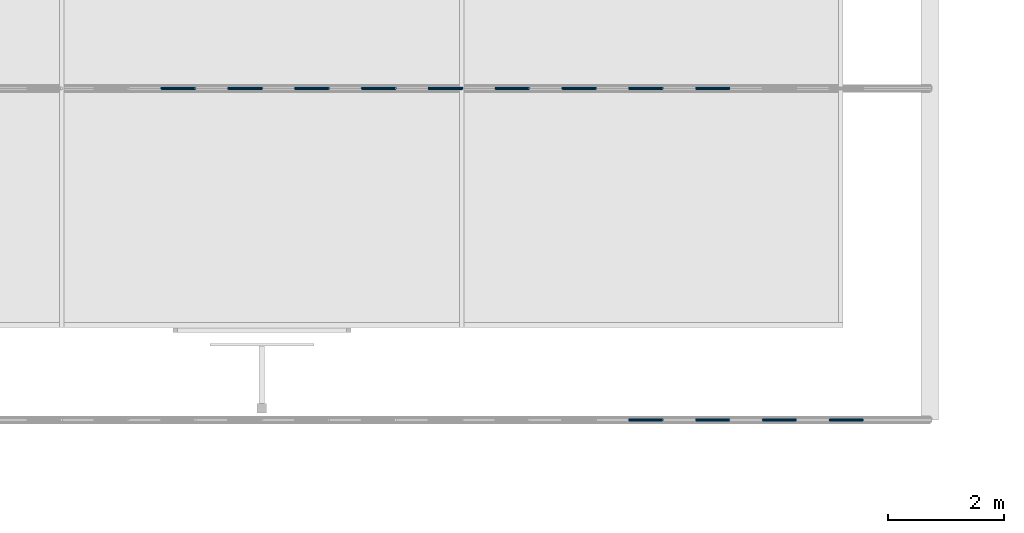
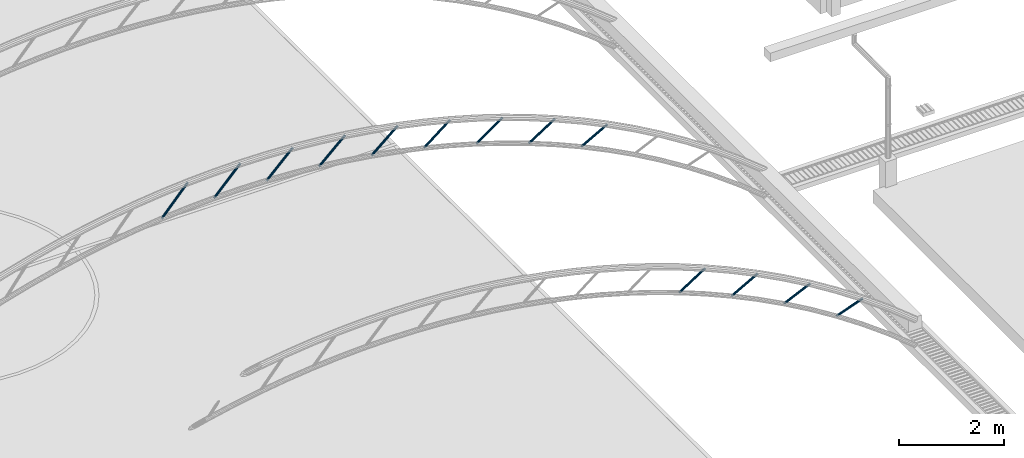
# One storey, part 18 of 90: 13 beams.
"""IFC2X3 building model written with IfcOpenShell, lengths in metres."""

from ifc_helpers import new_model, si_unit, origin, origin_with_axes, place, context, subcontext, project, spatial, faceted_brep, element, save


model = new_model("IFC2X3")

# Units and contexts
model_context = context("Model", 3, precision=1e-05, world=origin_with_axes())
body_context = subcontext(model_context, "Body", "Model", "MODEL_VIEW")
ifc_project = project(units=[si_unit("LENGTHUNIT", "METRE"), si_unit("AREAUNIT", "SQUARE_METRE"), si_unit("VOLUMEUNIT", "CUBIC_METRE"), si_unit("PLANEANGLEUNIT", "RADIAN")], contexts=[model_context])

# Site, building, storey
site_placement = place(None, origin_with_axes())
site = spatial("IfcSite", under=ifc_project, at=site_placement, Name="Predio Los Mangos - Morales, San Martín", CompositionType="ELEMENT")
building_placement = place(site_placement, origin())
building = spatial("IfcBuilding", under=site, at=building_placement, Name="Hogar de Refugio Temporal", CompositionType="ELEMENT")
storey_placement = place(building_placement, origin())
storey = spatial("IfcBuildingStorey", under=building, at=storey_placement, Name="NIVEL 1 (NPT +0.00)", CompositionType="ELEMENT", Elevation=0.0)

# Beams
beam_1_placement = place(storey_placement, origin())
element("IfcBeam", 1, at=beam_1_placement, inside=storey, Name="diag", ObjectType="Viga", context=body_context, shape_type="Brep", body=[
    faceted_brep([(21.3958, 92.6217, 8.401), (21.9733, 92.6217, 8.7715), (21.98, 92.625, 8.7609), (21.4025, 92.625, 8.3905), (21.3908, 92.6125, 8.4087), (21.9683, 92.6125, 8.7792), (21.389, 92.6, 8.4115), (21.9665, 92.6, 8.782), (21.3908, 92.5875, 8.4087), (21.9683, 92.5875, 8.7792), (21.3958, 92.5783, 8.401), (21.9733, 92.5783, 8.7715), (21.4025, 92.575, 8.3905), (21.98, 92.575, 8.7609), (21.4092, 92.5783, 8.38), (21.9867, 92.5783, 8.7504), (21.4142, 92.5875, 8.3723), (21.9917, 92.5875, 8.7427), (21.416, 92.6, 8.3695), (21.9935, 92.6, 8.7399), (21.4142, 92.6125, 8.3723), (21.9917, 92.6125, 8.7427), (21.4092, 92.6217, 8.38), (21.9867, 92.6217, 8.7504), (21.4013, 92.6037, 8.3923), (21.4025, 92.6043, 8.3905), (21.98, 92.6043, 8.7609), (21.9788, 92.6037, 8.7627), (21.4005, 92.6021, 8.3936), (21.978, 92.6021, 8.7641), (21.4002, 92.6, 8.3941), (21.9777, 92.6, 8.7645), (21.4005, 92.5979, 8.3936), (21.978, 92.5979, 8.7641), (21.4013, 92.5963, 8.3923), (21.9788, 92.5963, 8.7627), (21.4025, 92.5957, 8.3905), (21.98, 92.5957, 8.7609), (21.4037, 92.5963, 8.3887), (21.9812, 92.5963, 8.7591), (21.4045, 92.5979, 8.3874), (21.982, 92.5979, 8.7578), (21.4048, 92.6, 8.3869), (21.9823, 92.6, 8.7573), (21.4045, 92.6021, 8.3874), (21.982, 92.6021, 8.7578), (21.4037, 92.6037, 8.3887), (21.9812, 92.6037, 8.7591)], [[[0, 1, 2, 3]], [[4, 5, 1, 0]], [[6, 7, 5, 4]], [[8, 9, 7, 6]], [[10, 11, 9, 8]], [[12, 13, 11, 10]], [[14, 15, 13, 12]], [[16, 17, 15, 14]], [[18, 19, 17, 16]], [[20, 21, 19, 18]], [[22, 23, 21, 20]], [[3, 2, 23, 22]], [[24, 25, 26, 27]], [[28, 24, 27, 29]], [[30, 28, 29, 31]], [[32, 30, 31, 33]], [[34, 32, 33, 35]], [[36, 34, 35, 37]], [[38, 36, 37, 39]], [[40, 38, 39, 41]], [[42, 40, 41, 43]], [[44, 42, 43, 45]], [[46, 44, 45, 47]], [[25, 46, 47, 26]], [[11, 13, 37, 35]], [[21, 23, 47, 45]], [[4, 0, 24, 28]], [[14, 12, 36, 38]], [[3, 22, 46, 25]], [[7, 9, 33, 31]], [[17, 19, 43, 41]], [[23, 2, 26, 47]], [[10, 8, 32, 34]], [[20, 18, 42, 44]], [[1, 5, 29, 27]], [[13, 15, 39, 37]], [[6, 4, 28, 30]], [[16, 14, 38, 40]], [[0, 3, 25, 24]], [[9, 11, 35, 33]], [[19, 21, 45, 43]], [[12, 10, 34, 36]], [[22, 20, 44, 46]], [[5, 7, 31, 29]], [[15, 17, 41, 39]], [[2, 1, 27, 26]], [[8, 6, 30, 32]], [[18, 16, 40, 42]]]),
])
beam_2_placement = place(storey_placement, origin())
element("IfcBeam", 2, at=beam_2_placement, inside=storey, Name="diag", ObjectType="Viga", context=body_context, shape_type="Brep", body=[
    faceted_brep([(22.5514, 92.6217, 7.9187), (23.1289, 92.6217, 8.2407), (23.135, 92.625, 8.2298), (22.5575, 92.625, 7.9077), (22.547, 92.6125, 7.9267), (23.1245, 92.6125, 8.2487), (22.5453, 92.6, 7.9296), (23.1228, 92.6, 8.2517), (22.547, 92.5875, 7.9267), (23.1245, 92.5875, 8.2487), (22.5514, 92.5783, 7.9187), (23.1289, 92.5783, 8.2407), (22.5575, 92.575, 7.9077), (23.135, 92.575, 8.2298), (22.5636, 92.5783, 7.8968), (23.1411, 92.5783, 8.2189), (22.568, 92.5875, 7.8888), (23.1455, 92.5875, 8.2109), (22.5697, 92.6, 7.8859), (23.1472, 92.6, 8.208), (22.568, 92.6125, 7.8888), (23.1455, 92.6125, 8.2109), (22.5636, 92.6217, 7.8968), (23.1411, 92.6217, 8.2189), (22.5565, 92.6037, 7.9096), (22.5575, 92.6043, 7.9077), (23.135, 92.6043, 8.2298), (23.134, 92.6037, 8.2317), (22.5557, 92.6021, 7.911), (23.1332, 92.6021, 8.2331), (22.5554, 92.6, 7.9115), (23.1329, 92.6, 8.2336), (22.5557, 92.5979, 7.911), (23.1332, 92.5979, 8.2331), (22.5565, 92.5963, 7.9096), (23.134, 92.5963, 8.2317), (22.5575, 92.5957, 7.9077), (23.135, 92.5957, 8.2298), (22.5585, 92.5963, 7.9059), (23.136, 92.5963, 8.228), (22.5593, 92.5979, 7.9045), (23.1368, 92.5979, 8.2266), (22.5596, 92.6, 7.904), (23.1371, 92.6, 8.2261), (22.5593, 92.6021, 7.9045), (23.1368, 92.6021, 8.2266), (22.5585, 92.6037, 7.9059), (23.136, 92.6037, 8.228)], [[[0, 1, 2, 3]], [[4, 5, 1, 0]], [[6, 7, 5, 4]], [[8, 9, 7, 6]], [[10, 11, 9, 8]], [[12, 13, 11, 10]], [[14, 15, 13, 12]], [[16, 17, 15, 14]], [[18, 19, 17, 16]], [[20, 21, 19, 18]], [[22, 23, 21, 20]], [[3, 2, 23, 22]], [[24, 25, 26, 27]], [[28, 24, 27, 29]], [[30, 28, 29, 31]], [[32, 30, 31, 33]], [[34, 32, 33, 35]], [[36, 34, 35, 37]], [[38, 36, 37, 39]], [[40, 38, 39, 41]], [[42, 40, 41, 43]], [[44, 42, 43, 45]], [[46, 44, 45, 47]], [[25, 46, 47, 26]], [[11, 13, 37, 35]], [[21, 23, 47, 45]], [[4, 0, 24, 28]], [[14, 12, 36, 38]], [[3, 22, 46, 25]], [[7, 9, 33, 31]], [[17, 19, 43, 41]], [[23, 2, 26, 47]], [[10, 8, 32, 34]], [[20, 18, 42, 44]], [[1, 5, 29, 27]], [[13, 15, 39, 37]], [[6, 4, 28, 30]], [[16, 14, 38, 40]], [[0, 3, 25, 24]], [[9, 11, 35, 33]], [[19, 21, 45, 43]], [[12, 10, 34, 36]], [[22, 20, 44, 46]], [[5, 7, 31, 29]], [[15, 17, 41, 39]], [[2, 1, 27, 26]], [[8, 6, 30, 32]], [[18, 16, 40, 42]]]),
])
beam_3_placement = place(storey_placement, origin())
element("IfcBeam", 3, at=beam_3_placement, inside=storey, Name="diag", ObjectType="Viga", context=body_context, shape_type="Brep", body=[
    faceted_brep([(23.7072, 92.6217, 7.3372), (24.2847, 92.6217, 7.6056), (24.29, 92.625, 7.5943), (23.7125, 92.625, 7.3259), (23.7034, 92.6125, 7.3455), (24.2809, 92.6125, 7.6139), (23.702, 92.6, 7.3485), (24.2795, 92.6, 7.617), (23.7034, 92.5875, 7.3455), (24.2809, 92.5875, 7.6139), (23.7072, 92.5783, 7.3372), (24.2847, 92.5783, 7.6056), (23.7125, 92.575, 7.3259), (24.29, 92.575, 7.5943), (23.7178, 92.5783, 7.3145), (24.2953, 92.5783, 7.583), (23.7216, 92.5875, 7.3062), (24.2991, 92.5875, 7.5747), (23.723, 92.6, 7.3032), (24.3005, 92.6, 7.5716), (23.7216, 92.6125, 7.3062), (24.2991, 92.6125, 7.5747), (23.7178, 92.6217, 7.3145), (24.2953, 92.6217, 7.583), (23.7116, 92.6037, 7.3278), (23.7125, 92.6043, 7.3259), (24.29, 92.6043, 7.5943), (24.2891, 92.6037, 7.5963), (23.7109, 92.6021, 7.3292), (24.2884, 92.6021, 7.5977), (23.7107, 92.6, 7.3298), (24.2882, 92.6, 7.5982), (23.7109, 92.5979, 7.3292), (24.2884, 92.5979, 7.5977), (23.7116, 92.5963, 7.3278), (24.2891, 92.5963, 7.5963), (23.7125, 92.5957, 7.3259), (24.29, 92.5957, 7.5943), (23.7134, 92.5963, 7.3239), (24.2909, 92.5963, 7.5924), (23.7141, 92.5979, 7.3225), (24.2916, 92.5979, 7.5909), (23.7143, 92.6, 7.322), (24.2918, 92.6, 7.5904), (23.7141, 92.6021, 7.3225), (24.2916, 92.6021, 7.5909), (23.7134, 92.6037, 7.3239), (24.2909, 92.6037, 7.5924)], [[[0, 1, 2, 3]], [[4, 5, 1, 0]], [[6, 7, 5, 4]], [[8, 9, 7, 6]], [[10, 11, 9, 8]], [[12, 13, 11, 10]], [[14, 15, 13, 12]], [[16, 17, 15, 14]], [[18, 19, 17, 16]], [[20, 21, 19, 18]], [[22, 23, 21, 20]], [[3, 2, 23, 22]], [[24, 25, 26, 27]], [[28, 24, 27, 29]], [[30, 28, 29, 31]], [[32, 30, 31, 33]], [[34, 32, 33, 35]], [[36, 34, 35, 37]], [[38, 36, 37, 39]], [[40, 38, 39, 41]], [[42, 40, 41, 43]], [[44, 42, 43, 45]], [[46, 44, 45, 47]], [[25, 46, 47, 26]], [[11, 13, 37, 35]], [[21, 23, 47, 45]], [[4, 0, 24, 28]], [[14, 12, 36, 38]], [[3, 22, 46, 25]], [[7, 9, 33, 31]], [[17, 19, 43, 41]], [[23, 2, 26, 47]], [[10, 8, 32, 34]], [[20, 18, 42, 44]], [[1, 5, 29, 27]], [[13, 15, 39, 37]], [[6, 4, 28, 30]], [[16, 14, 38, 40]], [[0, 3, 25, 24]], [[9, 11, 35, 33]], [[19, 21, 45, 43]], [[12, 10, 34, 36]], [[22, 20, 44, 46]], [[5, 7, 31, 29]], [[15, 17, 41, 39]], [[2, 1, 27, 26]], [[8, 6, 30, 32]], [[18, 16, 40, 42]]]),
])
beam_4_placement = place(storey_placement, origin())
element("IfcBeam", 4, at=beam_4_placement, inside=storey, Name="diag", ObjectType="Viga", context=body_context, shape_type="Brep", body=[
    faceted_brep([(24.8633, 92.6217, 6.6451), (25.4408, 92.6217, 6.8526), (25.445, 92.625, 6.8408), (24.8675, 92.625, 6.6333), (24.8602, 92.6125, 6.6537), (25.4377, 92.6125, 6.8612), (24.859, 92.6, 6.6569), (25.4365, 92.6, 6.8643), (24.8602, 92.5875, 6.6537), (25.4377, 92.5875, 6.8612), (24.8633, 92.5783, 6.6451), (25.4408, 92.5783, 6.8526), (24.8675, 92.575, 6.6333), (25.445, 92.575, 6.8408), (24.8717, 92.5783, 6.6216), (25.4492, 92.5783, 6.829), (24.8748, 92.5875, 6.613), (25.4523, 92.5875, 6.8204), (24.876, 92.6, 6.6098), (25.4535, 92.6, 6.8173), (24.8748, 92.6125, 6.613), (25.4523, 92.6125, 6.8204), (24.8717, 92.6217, 6.6216), (25.4492, 92.6217, 6.829), (24.8668, 92.6037, 6.6354), (24.8675, 92.6043, 6.6333), (25.445, 92.6043, 6.8408), (25.4443, 92.6037, 6.8428), (24.8662, 92.6021, 6.6368), (25.4437, 92.6021, 6.8443), (24.866, 92.6, 6.6374), (25.4435, 92.6, 6.8449), (24.8662, 92.5979, 6.6368), (25.4437, 92.5979, 6.8443), (24.8668, 92.5963, 6.6354), (25.4443, 92.5963, 6.8428), (24.8675, 92.5957, 6.6333), (25.445, 92.5957, 6.8408), (24.8682, 92.5963, 6.6313), (25.4457, 92.5963, 6.8388), (24.8688, 92.5979, 6.6298), (25.4463, 92.5979, 6.8373), (24.869, 92.6, 6.6293), (25.4465, 92.6, 6.8368), (24.8688, 92.6021, 6.6298), (25.4463, 92.6021, 6.8373), (24.8682, 92.6037, 6.6313), (25.4457, 92.6037, 6.8388)], [[[0, 1, 2, 3]], [[4, 5, 1, 0]], [[6, 7, 5, 4]], [[8, 9, 7, 6]], [[10, 11, 9, 8]], [[12, 13, 11, 10]], [[14, 15, 13, 12]], [[16, 17, 15, 14]], [[18, 19, 17, 16]], [[20, 21, 19, 18]], [[22, 23, 21, 20]], [[3, 2, 23, 22]], [[24, 25, 26, 27]], [[28, 24, 27, 29]], [[30, 28, 29, 31]], [[32, 30, 31, 33]], [[34, 32, 33, 35]], [[36, 34, 35, 37]], [[38, 36, 37, 39]], [[40, 38, 39, 41]], [[42, 40, 41, 43]], [[44, 42, 43, 45]], [[46, 44, 45, 47]], [[25, 46, 47, 26]], [[11, 13, 37, 35]], [[21, 23, 47, 45]], [[4, 0, 24, 28]], [[14, 12, 36, 38]], [[3, 22, 46, 25]], [[7, 9, 33, 31]], [[17, 19, 43, 41]], [[23, 2, 26, 47]], [[10, 8, 32, 34]], [[20, 18, 42, 44]], [[1, 5, 29, 27]], [[13, 15, 39, 37]], [[6, 4, 28, 30]], [[16, 14, 38, 40]], [[0, 3, 25, 24]], [[9, 11, 35, 33]], [[19, 21, 45, 43]], [[12, 10, 34, 36]], [[22, 20, 44, 46]], [[5, 7, 31, 29]], [[15, 17, 41, 39]], [[2, 1, 27, 26]], [[8, 6, 30, 32]], [[18, 16, 40, 42]]]),
])
beam_5_placement = place(storey_placement, origin())
element("IfcBeam", 5, at=beam_5_placement, inside=storey, Name="diag", ObjectType="Viga", context=body_context, shape_type="Brep", body=[
    faceted_brep([(13.3082, 98.355, 9.4747), (13.8857, 98.355, 10.1212), (13.895, 98.3583, 10.1129), (13.3175, 98.3583, 9.4663), (13.3014, 98.3458, 9.4808), (13.8789, 98.3458, 10.1273), (13.2989, 98.3333, 9.483), (13.8764, 98.3333, 10.1295), (13.3014, 98.3208, 9.4808), (13.8789, 98.3208, 10.1273), (13.3082, 98.3117, 9.4747), (13.8857, 98.3117, 10.1212), (13.3175, 98.3083, 9.4663), (13.895, 98.3083, 10.1129), (13.3268, 98.3117, 9.458), (13.9043, 98.3117, 10.1045), (13.3336, 98.3208, 9.4519), (13.9111, 98.3208, 10.0984), (13.3361, 98.3333, 9.4497), (13.9136, 98.3333, 10.0962), (13.3336, 98.3458, 9.4519), (13.9111, 98.3458, 10.0984), (13.3268, 98.355, 9.458), (13.9043, 98.355, 10.1045), (13.3159, 98.3371, 9.4678), (13.3175, 98.3376, 9.4663), (13.895, 98.3376, 10.1129), (13.8934, 98.3371, 10.1143), (13.3147, 98.3355, 9.4688), (13.8922, 98.3355, 10.1153), (13.3143, 98.3333, 9.4692), (13.8918, 98.3333, 10.1157), (13.3147, 98.3312, 9.4688), (13.8922, 98.3312, 10.1153), (13.3159, 98.3296, 9.4678), (13.8934, 98.3296, 10.1143), (13.3175, 98.329, 9.4663), (13.895, 98.329, 10.1129), (13.3191, 98.3296, 9.4649), (13.8966, 98.3296, 10.1114), (13.3203, 98.3312, 9.4639), (13.8978, 98.3312, 10.1104), (13.3207, 98.3333, 9.4635), (13.8982, 98.3333, 10.11), (13.3203, 98.3355, 9.4639), (13.8978, 98.3355, 10.1104), (13.3191, 98.3371, 9.4649), (13.8966, 98.3371, 10.1114)], [[[0, 1, 2, 3]], [[4, 5, 1, 0]], [[6, 7, 5, 4]], [[8, 9, 7, 6]], [[10, 11, 9, 8]], [[12, 13, 11, 10]], [[14, 15, 13, 12]], [[16, 17, 15, 14]], [[18, 19, 17, 16]], [[20, 21, 19, 18]], [[22, 23, 21, 20]], [[3, 2, 23, 22]], [[24, 25, 26, 27]], [[28, 24, 27, 29]], [[30, 28, 29, 31]], [[32, 30, 31, 33]], [[34, 32, 33, 35]], [[36, 34, 35, 37]], [[38, 36, 37, 39]], [[40, 38, 39, 41]], [[42, 40, 41, 43]], [[44, 42, 43, 45]], [[46, 44, 45, 47]], [[25, 46, 47, 26]], [[11, 13, 37, 35]], [[21, 23, 47, 45]], [[4, 0, 24, 28]], [[14, 12, 36, 38]], [[3, 22, 46, 25]], [[7, 9, 33, 31]], [[17, 19, 43, 41]], [[23, 2, 26, 47]], [[10, 8, 32, 34]], [[20, 18, 42, 44]], [[1, 5, 29, 27]], [[13, 15, 39, 37]], [[6, 4, 28, 30]], [[16, 14, 38, 40]], [[0, 3, 25, 24]], [[9, 11, 35, 33]], [[19, 21, 45, 43]], [[12, 10, 34, 36]], [[22, 20, 44, 46]], [[5, 7, 31, 29]], [[15, 17, 41, 39]], [[2, 1, 27, 26]], [[8, 6, 30, 32]], [[18, 16, 40, 42]]]),
])
beam_6_placement = place(storey_placement, origin())
element("IfcBeam", 6, at=beam_6_placement, inside=storey, Name="diag", ObjectType="Viga", context=body_context, shape_type="Brep", body=[
    faceted_brep([(14.4634, 98.355, 9.5493), (15.0409, 98.355, 10.1586), (15.05, 98.3583, 10.15), (14.4725, 98.3583, 9.5407), (14.4568, 98.3458, 9.5556), (15.0343, 98.3458, 10.1649), (14.4544, 98.3333, 9.5579), (15.0319, 98.3333, 10.1672), (14.4568, 98.3208, 9.5556), (15.0343, 98.3208, 10.1649), (14.4634, 98.3117, 9.5493), (15.0409, 98.3117, 10.1586), (14.4725, 98.3083, 9.5407), (15.05, 98.3083, 10.15), (14.4816, 98.3117, 9.5321), (15.0591, 98.3117, 10.1414), (14.4882, 98.3208, 9.5258), (15.0657, 98.3208, 10.1351), (14.4906, 98.3333, 9.5235), (15.0681, 98.3333, 10.1328), (14.4882, 98.3458, 9.5258), (15.0657, 98.3458, 10.1351), (14.4816, 98.355, 9.5321), (15.0591, 98.355, 10.1414), (14.4709, 98.3371, 9.5422), (14.4725, 98.3376, 9.5407), (15.05, 98.3376, 10.15), (15.0484, 98.3371, 10.1515), (14.4698, 98.3355, 9.5433), (15.0473, 98.3355, 10.1526), (14.4694, 98.3333, 9.5437), (15.0469, 98.3333, 10.153), (14.4698, 98.3312, 9.5433), (15.0473, 98.3312, 10.1526), (14.4709, 98.3296, 9.5422), (15.0484, 98.3296, 10.1515), (14.4725, 98.329, 9.5407), (15.05, 98.329, 10.15), (14.4741, 98.3296, 9.5392), (15.0516, 98.3296, 10.1485), (14.4752, 98.3312, 9.5382), (15.0527, 98.3312, 10.1474), (14.4756, 98.3333, 9.5378), (15.0531, 98.3333, 10.147), (14.4752, 98.3355, 9.5382), (15.0527, 98.3355, 10.1474), (14.4741, 98.3371, 9.5392), (15.0516, 98.3371, 10.1485)], [[[0, 1, 2, 3]], [[4, 5, 1, 0]], [[6, 7, 5, 4]], [[8, 9, 7, 6]], [[10, 11, 9, 8]], [[12, 13, 11, 10]], [[14, 15, 13, 12]], [[16, 17, 15, 14]], [[18, 19, 17, 16]], [[20, 21, 19, 18]], [[22, 23, 21, 20]], [[3, 2, 23, 22]], [[24, 25, 26, 27]], [[28, 24, 27, 29]], [[30, 28, 29, 31]], [[32, 30, 31, 33]], [[34, 32, 33, 35]], [[36, 34, 35, 37]], [[38, 36, 37, 39]], [[40, 38, 39, 41]], [[42, 40, 41, 43]], [[44, 42, 43, 45]], [[46, 44, 45, 47]], [[25, 46, 47, 26]], [[11, 13, 37, 35]], [[21, 23, 47, 45]], [[4, 0, 24, 28]], [[14, 12, 36, 38]], [[3, 22, 46, 25]], [[7, 9, 33, 31]], [[17, 19, 43, 41]], [[23, 2, 26, 47]], [[10, 8, 32, 34]], [[20, 18, 42, 44]], [[1, 5, 29, 27]], [[13, 15, 39, 37]], [[6, 4, 28, 30]], [[16, 14, 38, 40]], [[0, 3, 25, 24]], [[9, 11, 35, 33]], [[19, 21, 45, 43]], [[12, 10, 34, 36]], [[22, 20, 44, 46]], [[5, 7, 31, 29]], [[15, 17, 41, 39]], [[2, 1, 27, 26]], [[8, 6, 30, 32]], [[18, 16, 40, 42]]]),
])
beam_7_placement = place(storey_placement, origin())
element("IfcBeam", 7, at=beam_7_placement, inside=storey, Name="diag", ObjectType="Viga", context=body_context, shape_type="Brep", body=[
    faceted_brep([(15.6187, 98.355, 9.5496), (16.1962, 98.355, 10.1217), (16.205, 98.3583, 10.1129), (15.6275, 98.3583, 9.5407), (15.6123, 98.3458, 9.5561), (16.1898, 98.3458, 10.1282), (15.6099, 98.3333, 9.5585), (16.1874, 98.3333, 10.1306), (15.6123, 98.3208, 9.5561), (16.1898, 98.3208, 10.1282), (15.6187, 98.3117, 9.5496), (16.1962, 98.3117, 10.1217), (15.6275, 98.3083, 9.5407), (16.205, 98.3083, 10.1129), (15.6363, 98.3117, 9.5318), (16.2138, 98.3117, 10.104), (15.6427, 98.3208, 9.5253), (16.2202, 98.3208, 10.0975), (15.6451, 98.3333, 9.523), (16.2226, 98.3333, 10.0951), (15.6427, 98.3458, 9.5253), (16.2202, 98.3458, 10.0975), (15.6363, 98.355, 9.5318), (16.2138, 98.355, 10.104), (15.626, 98.3371, 9.5422), (15.6275, 98.3376, 9.5407), (16.205, 98.3376, 10.1129), (16.2035, 98.3371, 10.1144), (15.6249, 98.3355, 9.5434), (16.2024, 98.3355, 10.1155), (15.6245, 98.3333, 9.5438), (16.202, 98.3333, 10.1159), (15.6249, 98.3312, 9.5434), (16.2024, 98.3312, 10.1155), (15.626, 98.3296, 9.5422), (16.2035, 98.3296, 10.1144), (15.6275, 98.329, 9.5407), (16.205, 98.329, 10.1129), (15.629, 98.3296, 9.5392), (16.2065, 98.3296, 10.1113), (15.6301, 98.3312, 9.5381), (16.2076, 98.3312, 10.1102), (15.6305, 98.3333, 9.5377), (16.208, 98.3333, 10.1098), (15.6301, 98.3355, 9.5381), (16.2076, 98.3355, 10.1102), (15.629, 98.3371, 9.5392), (16.2065, 98.3371, 10.1113)], [[[0, 1, 2, 3]], [[4, 5, 1, 0]], [[6, 7, 5, 4]], [[8, 9, 7, 6]], [[10, 11, 9, 8]], [[12, 13, 11, 10]], [[14, 15, 13, 12]], [[16, 17, 15, 14]], [[18, 19, 17, 16]], [[20, 21, 19, 18]], [[22, 23, 21, 20]], [[3, 2, 23, 22]], [[24, 25, 26, 27]], [[28, 24, 27, 29]], [[30, 28, 29, 31]], [[32, 30, 31, 33]], [[34, 32, 33, 35]], [[36, 34, 35, 37]], [[38, 36, 37, 39]], [[40, 38, 39, 41]], [[42, 40, 41, 43]], [[44, 42, 43, 45]], [[46, 44, 45, 47]], [[25, 46, 47, 26]], [[11, 13, 37, 35]], [[21, 23, 47, 45]], [[4, 0, 24, 28]], [[14, 12, 36, 38]], [[3, 22, 46, 25]], [[7, 9, 33, 31]], [[17, 19, 43, 41]], [[23, 2, 26, 47]], [[10, 8, 32, 34]], [[20, 18, 42, 44]], [[1, 5, 29, 27]], [[13, 15, 39, 37]], [[6, 4, 28, 30]], [[16, 14, 38, 40]], [[0, 3, 25, 24]], [[9, 11, 35, 33]], [[19, 21, 45, 43]], [[12, 10, 34, 36]], [[22, 20, 44, 46]], [[5, 7, 31, 29]], [[15, 17, 41, 39]], [[2, 1, 27, 26]], [[8, 6, 30, 32]], [[18, 16, 40, 42]]]),
])
beam_8_placement = place(storey_placement, origin())
element("IfcBeam", 8, at=beam_8_placement, inside=storey, Name="diag", ObjectType="Viga", context=body_context, shape_type="Brep", body=[
    faceted_brep([(16.774, 98.355, 9.4755), (17.3515, 98.355, 10.0102), (17.36, 98.3583, 10.001), (16.7825, 98.3583, 9.4663), (16.7678, 98.3458, 9.4822), (17.3453, 98.3458, 10.0169), (16.7655, 98.3333, 9.4847), (17.343, 98.3333, 10.0193), (16.7678, 98.3208, 9.4822), (17.3453, 98.3208, 10.0169), (16.774, 98.3117, 9.4755), (17.3515, 98.3117, 10.0102), (16.7825, 98.3083, 9.4663), (17.36, 98.3083, 10.001), (16.791, 98.3117, 9.4572), (17.3685, 98.3117, 9.9918), (16.7972, 98.3208, 9.4505), (17.3747, 98.3208, 9.9851), (16.7995, 98.3333, 9.448), (17.377, 98.3333, 9.9827), (16.7972, 98.3458, 9.4505), (17.3747, 98.3458, 9.9851), (16.791, 98.355, 9.4572), (17.3685, 98.355, 9.9918), (16.781, 98.3371, 9.4679), (16.7825, 98.3376, 9.4663), (17.36, 98.3376, 10.001), (17.3585, 98.3371, 10.0026), (16.78, 98.3355, 9.4691), (17.3575, 98.3355, 10.0037), (16.7796, 98.3333, 9.4695), (17.3571, 98.3333, 10.0042), (16.78, 98.3312, 9.4691), (17.3575, 98.3312, 10.0037), (16.781, 98.3296, 9.4679), (17.3585, 98.3296, 10.0026), (16.7825, 98.329, 9.4663), (17.36, 98.329, 10.001), (16.784, 98.3296, 9.4648), (17.3615, 98.3296, 9.9994), (16.785, 98.3312, 9.4636), (17.3625, 98.3312, 9.9983), (16.7854, 98.3333, 9.4632), (17.3629, 98.3333, 9.9979), (16.785, 98.3355, 9.4636), (17.3625, 98.3355, 9.9983), (16.784, 98.3371, 9.4648), (17.3615, 98.3371, 9.9994)], [[[0, 1, 2, 3]], [[4, 5, 1, 0]], [[6, 7, 5, 4]], [[8, 9, 7, 6]], [[10, 11, 9, 8]], [[12, 13, 11, 10]], [[14, 15, 13, 12]], [[16, 17, 15, 14]], [[18, 19, 17, 16]], [[20, 21, 19, 18]], [[22, 23, 21, 20]], [[3, 2, 23, 22]], [[24, 25, 26, 27]], [[28, 24, 27, 29]], [[30, 28, 29, 31]], [[32, 30, 31, 33]], [[34, 32, 33, 35]], [[36, 34, 35, 37]], [[38, 36, 37, 39]], [[40, 38, 39, 41]], [[42, 40, 41, 43]], [[44, 42, 43, 45]], [[46, 44, 45, 47]], [[25, 46, 47, 26]], [[11, 13, 37, 35]], [[21, 23, 47, 45]], [[4, 0, 24, 28]], [[14, 12, 36, 38]], [[3, 22, 46, 25]], [[7, 9, 33, 31]], [[17, 19, 43, 41]], [[23, 2, 26, 47]], [[10, 8, 32, 34]], [[20, 18, 42, 44]], [[1, 5, 29, 27]], [[13, 15, 39, 37]], [[6, 4, 28, 30]], [[16, 14, 38, 40]], [[0, 3, 25, 24]], [[9, 11, 35, 33]], [[19, 21, 45, 43]], [[12, 10, 34, 36]], [[22, 20, 44, 46]], [[5, 7, 31, 29]], [[15, 17, 41, 39]], [[2, 1, 27, 26]], [[8, 6, 30, 32]], [[18, 16, 40, 42]]]),
])
beam_9_placement = place(storey_placement, origin())
element("IfcBeam", 9, at=beam_9_placement, inside=storey, Name="diag", ObjectType="Viga", context=body_context, shape_type="Brep", body=[
    faceted_brep([(17.9294, 98.355, 9.3261), (18.5069, 98.355, 9.8225), (18.515, 98.3583, 9.813), (17.9375, 98.3583, 9.3166), (17.9234, 98.3458, 9.3331), (18.5009, 98.3458, 9.8294), (17.9212, 98.3333, 9.3356), (18.4987, 98.3333, 9.8319), (17.9234, 98.3208, 9.3331), (18.5009, 98.3208, 9.8294), (17.9294, 98.3117, 9.3261), (18.5069, 98.3117, 9.8225), (17.9375, 98.3083, 9.3166), (18.515, 98.3083, 9.813), (17.9456, 98.3117, 9.3072), (18.5231, 98.3117, 9.8035), (17.9516, 98.3208, 9.3002), (18.5291, 98.3208, 9.7966), (17.9538, 98.3333, 9.2977), (18.5313, 98.3333, 9.794), (17.9516, 98.3458, 9.3002), (18.5291, 98.3458, 9.7966), (17.9456, 98.355, 9.3072), (18.5231, 98.355, 9.8035), (17.9361, 98.3371, 9.3183), (17.9375, 98.3376, 9.3166), (18.515, 98.3376, 9.813), (18.5136, 98.3371, 9.8146), (17.9351, 98.3355, 9.3195), (18.5126, 98.3355, 9.8158), (17.9347, 98.3333, 9.3199), (18.5122, 98.3333, 9.8162), (17.9351, 98.3312, 9.3195), (18.5126, 98.3312, 9.8158), (17.9361, 98.3296, 9.3183), (18.5136, 98.3296, 9.8146), (17.9375, 98.329, 9.3166), (18.515, 98.329, 9.813), (17.9389, 98.3296, 9.315), (18.5164, 98.3296, 9.8114), (17.9399, 98.3312, 9.3138), (18.5174, 98.3312, 9.8102), (17.9403, 98.3333, 9.3134), (18.5178, 98.3333, 9.8097), (17.9399, 98.3355, 9.3138), (18.5174, 98.3355, 9.8102), (17.9389, 98.3371, 9.315), (18.5164, 98.3371, 9.8114)], [[[0, 1, 2, 3]], [[4, 5, 1, 0]], [[6, 7, 5, 4]], [[8, 9, 7, 6]], [[10, 11, 9, 8]], [[12, 13, 11, 10]], [[14, 15, 13, 12]], [[16, 17, 15, 14]], [[18, 19, 17, 16]], [[20, 21, 19, 18]], [[22, 23, 21, 20]], [[3, 2, 23, 22]], [[24, 25, 26, 27]], [[28, 24, 27, 29]], [[30, 28, 29, 31]], [[32, 30, 31, 33]], [[34, 32, 33, 35]], [[36, 34, 35, 37]], [[38, 36, 37, 39]], [[40, 38, 39, 41]], [[42, 40, 41, 43]], [[44, 42, 43, 45]], [[46, 44, 45, 47]], [[25, 46, 47, 26]], [[11, 13, 37, 35]], [[21, 23, 47, 45]], [[4, 0, 24, 28]], [[14, 12, 36, 38]], [[3, 22, 46, 25]], [[7, 9, 33, 31]], [[17, 19, 43, 41]], [[23, 2, 26, 47]], [[10, 8, 32, 34]], [[20, 18, 42, 44]], [[1, 5, 29, 27]], [[13, 15, 39, 37]], [[6, 4, 28, 30]], [[16, 14, 38, 40]], [[0, 3, 25, 24]], [[9, 11, 35, 33]], [[19, 21, 45, 43]], [[12, 10, 34, 36]], [[22, 20, 44, 46]], [[5, 7, 31, 29]], [[15, 17, 41, 39]], [[2, 1, 27, 26]], [[8, 6, 30, 32]], [[18, 16, 40, 42]]]),
])
beam_10_placement = place(storey_placement, origin())
element("IfcBeam", 10, at=beam_10_placement, inside=storey, Name="diag", ObjectType="Viga", context=body_context, shape_type="Brep", body=[
    faceted_brep([(19.0847, 98.355, 9.0995), (19.6622, 98.355, 9.5562), (19.67, 98.3583, 9.5463), (19.0925, 98.3583, 9.0897), (19.0791, 98.3458, 9.1067), (19.6566, 98.3458, 9.5633), (19.077, 98.3333, 9.1093), (19.6545, 98.3333, 9.566), (19.0791, 98.3208, 9.1067), (19.6566, 98.3208, 9.5633), (19.0847, 98.3117, 9.0995), (19.6622, 98.3117, 9.5562), (19.0925, 98.3083, 9.0897), (19.67, 98.3083, 9.5463), (19.1003, 98.3117, 9.0799), (19.6778, 98.3117, 9.5365), (19.1059, 98.3208, 9.0727), (19.6834, 98.3208, 9.5294), (19.108, 98.3333, 9.0701), (19.6855, 98.3333, 9.5267), (19.1059, 98.3458, 9.0727), (19.6834, 98.3458, 9.5294), (19.1003, 98.355, 9.0799), (19.6778, 98.355, 9.5365), (19.0912, 98.3371, 9.0914), (19.0925, 98.3376, 9.0897), (19.67, 98.3376, 9.5463), (19.6687, 98.3371, 9.548), (19.0902, 98.3355, 9.0926), (19.6677, 98.3355, 9.5493), (19.0898, 98.3333, 9.0931), (19.6673, 98.3333, 9.5497), (19.0902, 98.3312, 9.0926), (19.6677, 98.3312, 9.5493), (19.0912, 98.3296, 9.0914), (19.6687, 98.3296, 9.548), (19.0925, 98.329, 9.0897), (19.67, 98.329, 9.5463), (19.0938, 98.3296, 9.088), (19.6713, 98.3296, 9.5447), (19.0948, 98.3312, 9.0868), (19.6723, 98.3312, 9.5434), (19.0952, 98.3333, 9.0863), (19.6727, 98.3333, 9.543), (19.0948, 98.3355, 9.0868), (19.6723, 98.3355, 9.5434), (19.0938, 98.3371, 9.088), (19.6713, 98.3371, 9.5447)], [[[0, 1, 2, 3]], [[4, 5, 1, 0]], [[6, 7, 5, 4]], [[8, 9, 7, 6]], [[10, 11, 9, 8]], [[12, 13, 11, 10]], [[14, 15, 13, 12]], [[16, 17, 15, 14]], [[18, 19, 17, 16]], [[20, 21, 19, 18]], [[22, 23, 21, 20]], [[3, 2, 23, 22]], [[24, 25, 26, 27]], [[28, 24, 27, 29]], [[30, 28, 29, 31]], [[32, 30, 31, 33]], [[34, 32, 33, 35]], [[36, 34, 35, 37]], [[38, 36, 37, 39]], [[40, 38, 39, 41]], [[42, 40, 41, 43]], [[44, 42, 43, 45]], [[46, 44, 45, 47]], [[25, 46, 47, 26]], [[11, 13, 37, 35]], [[21, 23, 47, 45]], [[4, 0, 24, 28]], [[14, 12, 36, 38]], [[3, 22, 46, 25]], [[7, 9, 33, 31]], [[17, 19, 43, 41]], [[23, 2, 26, 47]], [[10, 8, 32, 34]], [[20, 18, 42, 44]], [[1, 5, 29, 27]], [[13, 15, 39, 37]], [[6, 4, 28, 30]], [[16, 14, 38, 40]], [[0, 3, 25, 24]], [[9, 11, 35, 33]], [[19, 21, 45, 43]], [[12, 10, 34, 36]], [[22, 20, 44, 46]], [[5, 7, 31, 29]], [[15, 17, 41, 39]], [[2, 1, 27, 26]], [[8, 6, 30, 32]], [[18, 16, 40, 42]]]),
])
beam_11_placement = place(storey_placement, origin())
element("IfcBeam", 11, at=beam_11_placement, inside=storey, Name="diag", ObjectType="Viga", context=body_context, shape_type="Brep", body=[
    faceted_brep([(20.2402, 98.355, 8.7926), (20.8177, 98.355, 9.2075), (20.825, 98.3583, 9.1974), (20.2475, 98.3583, 8.7824), (20.2349, 98.3458, 8.8), (20.8124, 98.3458, 9.215), (20.2329, 98.3333, 8.8027), (20.8104, 98.3333, 9.2177), (20.2349, 98.3208, 8.8), (20.8124, 98.3208, 9.215), (20.2402, 98.3117, 8.7926), (20.8177, 98.3117, 9.2075), (20.2475, 98.3083, 8.7824), (20.825, 98.3083, 9.1974), (20.2548, 98.3117, 8.7723), (20.8323, 98.3117, 9.1872), (20.2601, 98.3208, 8.7649), (20.8376, 98.3208, 9.1798), (20.2621, 98.3333, 8.7621), (20.8396, 98.3333, 9.1771), (20.2601, 98.3458, 8.7649), (20.8376, 98.3458, 9.1798), (20.2548, 98.355, 8.7723), (20.8323, 98.355, 9.1872), (20.2462, 98.3371, 8.7842), (20.2475, 98.3376, 8.7824), (20.825, 98.3376, 9.1974), (20.8237, 98.3371, 9.1991), (20.2453, 98.3355, 8.7855), (20.8228, 98.3355, 9.2004), (20.245, 98.3333, 8.7859), (20.8225, 98.3333, 9.2009), (20.2453, 98.3312, 8.7855), (20.8228, 98.3312, 9.2004), (20.2462, 98.3296, 8.7842), (20.8237, 98.3296, 9.1991), (20.2475, 98.329, 8.7824), (20.825, 98.329, 9.1974), (20.2488, 98.3296, 8.7807), (20.8263, 98.3296, 9.1957), (20.2497, 98.3312, 8.7794), (20.8272, 98.3312, 9.1944), (20.25, 98.3333, 8.779), (20.8275, 98.3333, 9.1939), (20.2497, 98.3355, 8.7794), (20.8272, 98.3355, 9.1944), (20.2488, 98.3371, 8.7807), (20.8263, 98.3371, 9.1957)], [[[0, 1, 2, 3]], [[4, 5, 1, 0]], [[6, 7, 5, 4]], [[8, 9, 7, 6]], [[10, 11, 9, 8]], [[12, 13, 11, 10]], [[14, 15, 13, 12]], [[16, 17, 15, 14]], [[18, 19, 17, 16]], [[20, 21, 19, 18]], [[22, 23, 21, 20]], [[3, 2, 23, 22]], [[24, 25, 26, 27]], [[28, 24, 27, 29]], [[30, 28, 29, 31]], [[32, 30, 31, 33]], [[34, 32, 33, 35]], [[36, 34, 35, 37]], [[38, 36, 37, 39]], [[40, 38, 39, 41]], [[42, 40, 41, 43]], [[44, 42, 43, 45]], [[46, 44, 45, 47]], [[25, 46, 47, 26]], [[11, 13, 37, 35]], [[21, 23, 47, 45]], [[4, 0, 24, 28]], [[14, 12, 36, 38]], [[3, 22, 46, 25]], [[7, 9, 33, 31]], [[17, 19, 43, 41]], [[23, 2, 26, 47]], [[10, 8, 32, 34]], [[20, 18, 42, 44]], [[1, 5, 29, 27]], [[13, 15, 39, 37]], [[6, 4, 28, 30]], [[16, 14, 38, 40]], [[0, 3, 25, 24]], [[9, 11, 35, 33]], [[19, 21, 45, 43]], [[12, 10, 34, 36]], [[22, 20, 44, 46]], [[5, 7, 31, 29]], [[15, 17, 41, 39]], [[2, 1, 27, 26]], [[8, 6, 30, 32]], [[18, 16, 40, 42]]]),
])
beam_12_placement = place(storey_placement, origin())
element("IfcBeam", 12, at=beam_12_placement, inside=storey, Name="diag", ObjectType="Viga", context=body_context, shape_type="Brep", body=[
    faceted_brep([(21.3958, 98.355, 8.401), (21.9733, 98.355, 8.7715), (21.98, 98.3583, 8.7609), (21.4025, 98.3583, 8.3905), (21.3908, 98.3458, 8.4087), (21.9683, 98.3458, 8.7792), (21.389, 98.3333, 8.4115), (21.9665, 98.3333, 8.782), (21.3908, 98.3208, 8.4087), (21.9683, 98.3208, 8.7792), (21.3958, 98.3117, 8.401), (21.9733, 98.3117, 8.7715), (21.4025, 98.3083, 8.3905), (21.98, 98.3083, 8.7609), (21.4092, 98.3117, 8.38), (21.9867, 98.3117, 8.7504), (21.4142, 98.3208, 8.3723), (21.9917, 98.3208, 8.7427), (21.416, 98.3333, 8.3695), (21.9935, 98.3333, 8.7399), (21.4142, 98.3458, 8.3723), (21.9917, 98.3458, 8.7427), (21.4092, 98.355, 8.38), (21.9867, 98.355, 8.7504), (21.4013, 98.3371, 8.3923), (21.4025, 98.3376, 8.3905), (21.98, 98.3376, 8.7609), (21.9788, 98.3371, 8.7627), (21.4005, 98.3355, 8.3936), (21.978, 98.3355, 8.7641), (21.4002, 98.3333, 8.3941), (21.9777, 98.3333, 8.7645), (21.4005, 98.3312, 8.3936), (21.978, 98.3312, 8.7641), (21.4013, 98.3296, 8.3923), (21.9788, 98.3296, 8.7627), (21.4025, 98.329, 8.3905), (21.98, 98.329, 8.7609), (21.4037, 98.3296, 8.3887), (21.9812, 98.3296, 8.7591), (21.4045, 98.3312, 8.3874), (21.982, 98.3312, 8.7578), (21.4048, 98.3333, 8.3869), (21.9823, 98.3333, 8.7573), (21.4045, 98.3355, 8.3874), (21.982, 98.3355, 8.7578), (21.4037, 98.3371, 8.3887), (21.9812, 98.3371, 8.7591)], [[[0, 1, 2, 3]], [[4, 5, 1, 0]], [[6, 7, 5, 4]], [[8, 9, 7, 6]], [[10, 11, 9, 8]], [[12, 13, 11, 10]], [[14, 15, 13, 12]], [[16, 17, 15, 14]], [[18, 19, 17, 16]], [[20, 21, 19, 18]], [[22, 23, 21, 20]], [[3, 2, 23, 22]], [[24, 25, 26, 27]], [[28, 24, 27, 29]], [[30, 28, 29, 31]], [[32, 30, 31, 33]], [[34, 32, 33, 35]], [[36, 34, 35, 37]], [[38, 36, 37, 39]], [[40, 38, 39, 41]], [[42, 40, 41, 43]], [[44, 42, 43, 45]], [[46, 44, 45, 47]], [[25, 46, 47, 26]], [[11, 13, 37, 35]], [[21, 23, 47, 45]], [[4, 0, 24, 28]], [[14, 12, 36, 38]], [[3, 22, 46, 25]], [[7, 9, 33, 31]], [[17, 19, 43, 41]], [[23, 2, 26, 47]], [[10, 8, 32, 34]], [[20, 18, 42, 44]], [[1, 5, 29, 27]], [[13, 15, 39, 37]], [[6, 4, 28, 30]], [[16, 14, 38, 40]], [[0, 3, 25, 24]], [[9, 11, 35, 33]], [[19, 21, 45, 43]], [[12, 10, 34, 36]], [[22, 20, 44, 46]], [[5, 7, 31, 29]], [[15, 17, 41, 39]], [[2, 1, 27, 26]], [[8, 6, 30, 32]], [[18, 16, 40, 42]]]),
])
beam_13_placement = place(storey_placement, origin())
element("IfcBeam", 13, at=beam_13_placement, inside=storey, Name="diag", ObjectType="Viga", context=body_context, shape_type="Brep", body=[
    faceted_brep([(22.5514, 98.355, 7.9187), (23.1289, 98.355, 8.2407), (23.135, 98.3583, 8.2298), (22.5575, 98.3583, 7.9077), (22.547, 98.3458, 7.9267), (23.1245, 98.3458, 8.2487), (22.5453, 98.3333, 7.9296), (23.1228, 98.3333, 8.2517), (22.547, 98.3208, 7.9267), (23.1245, 98.3208, 8.2487), (22.5514, 98.3117, 7.9187), (23.1289, 98.3117, 8.2407), (22.5575, 98.3083, 7.9077), (23.135, 98.3083, 8.2298), (22.5636, 98.3117, 7.8968), (23.1411, 98.3117, 8.2189), (22.568, 98.3208, 7.8888), (23.1455, 98.3208, 8.2109), (22.5697, 98.3333, 7.8859), (23.1472, 98.3333, 8.208), (22.568, 98.3458, 7.8888), (23.1455, 98.3458, 8.2109), (22.5636, 98.355, 7.8968), (23.1411, 98.355, 8.2189), (22.5565, 98.3371, 7.9096), (22.5575, 98.3376, 7.9077), (23.135, 98.3376, 8.2298), (23.134, 98.3371, 8.2317), (22.5557, 98.3355, 7.911), (23.1332, 98.3355, 8.2331), (22.5554, 98.3333, 7.9115), (23.1329, 98.3333, 8.2336), (22.5557, 98.3312, 7.911), (23.1332, 98.3312, 8.2331), (22.5565, 98.3296, 7.9096), (23.134, 98.3296, 8.2317), (22.5575, 98.329, 7.9077), (23.135, 98.329, 8.2298), (22.5585, 98.3296, 7.9059), (23.136, 98.3296, 8.228), (22.5593, 98.3312, 7.9045), (23.1368, 98.3312, 8.2266), (22.5596, 98.3333, 7.904), (23.1371, 98.3333, 8.2261), (22.5593, 98.3355, 7.9045), (23.1368, 98.3355, 8.2266), (22.5585, 98.3371, 7.9059), (23.136, 98.3371, 8.228)], [[[0, 1, 2, 3]], [[4, 5, 1, 0]], [[6, 7, 5, 4]], [[8, 9, 7, 6]], [[10, 11, 9, 8]], [[12, 13, 11, 10]], [[14, 15, 13, 12]], [[16, 17, 15, 14]], [[18, 19, 17, 16]], [[20, 21, 19, 18]], [[22, 23, 21, 20]], [[3, 2, 23, 22]], [[24, 25, 26, 27]], [[28, 24, 27, 29]], [[30, 28, 29, 31]], [[32, 30, 31, 33]], [[34, 32, 33, 35]], [[36, 34, 35, 37]], [[38, 36, 37, 39]], [[40, 38, 39, 41]], [[42, 40, 41, 43]], [[44, 42, 43, 45]], [[46, 44, 45, 47]], [[25, 46, 47, 26]], [[11, 13, 37, 35]], [[21, 23, 47, 45]], [[4, 0, 24, 28]], [[14, 12, 36, 38]], [[3, 22, 46, 25]], [[7, 9, 33, 31]], [[17, 19, 43, 41]], [[23, 2, 26, 47]], [[10, 8, 32, 34]], [[20, 18, 42, 44]], [[1, 5, 29, 27]], [[13, 15, 39, 37]], [[6, 4, 28, 30]], [[16, 14, 38, 40]], [[0, 3, 25, 24]], [[9, 11, 35, 33]], [[19, 21, 45, 43]], [[12, 10, 34, 36]], [[22, 20, 44, 46]], [[5, 7, 31, 29]], [[15, 17, 41, 39]], [[2, 1, 27, 26]], [[8, 6, 30, 32]], [[18, 16, 40, 42]]]),
])

save(model, "model.ifc")
